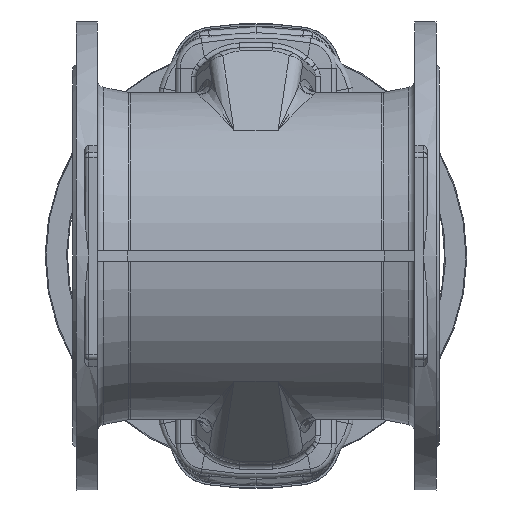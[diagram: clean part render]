
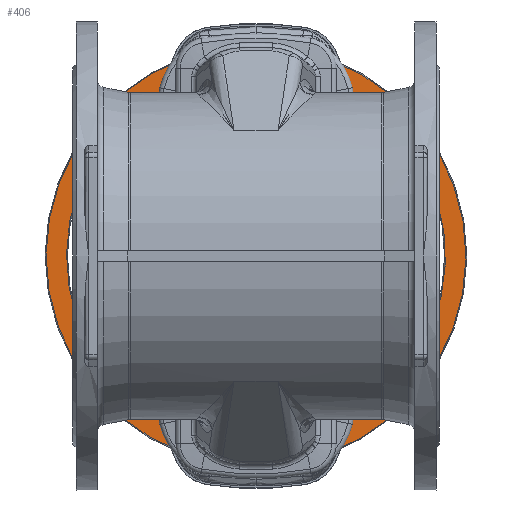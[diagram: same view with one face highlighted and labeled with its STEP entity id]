
A CAD part, front view. The second image highlights one B-rep face of the part: STEP entity #406.
In plain terms, the highlighted planar face has unit normal (0, -1, 0).
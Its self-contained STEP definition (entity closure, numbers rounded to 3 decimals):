
#406 = ADVANCED_FACE ( 'NONE', ( #44327, #44349 ), #39286, .F. ) ;
#11973 = EDGE_LOOP ( 'NONE', ( #46228 ) ) ;
#12008 = EDGE_LOOP ( 'NONE', ( #46229 ) ) ;
#22108 = CIRCLE ( 'NONE', #22518, 184.221 ) ;
#22112 = CIRCLE ( 'NONE', #22521, 204.116 ) ;
#22469 = VERTEX_POINT ( 'NONE', #27655 ) ;
#22472 = VERTEX_POINT ( 'NONE', #27658 ) ;
#22518 = AXIS2_PLACEMENT_3D ( 'NONE', #22806, #22807, #22808 ) ;
#22521 = AXIS2_PLACEMENT_3D ( 'NONE', #22816, #22817, #22818 ) ;
#22806 = CARTESIAN_POINT ( 'NONE',  ( 0., 966., 0. ) ) ;
#22807 = DIRECTION ( 'NONE',  ( 0., -1., 0. ) ) ;
#22808 = DIRECTION ( 'NONE',  ( 0., 0., 1. ) ) ;
#22816 = CARTESIAN_POINT ( 'NONE',  ( 0., 966., 0. ) ) ;
#22817 = DIRECTION ( 'NONE',  ( 0., 1., 0. ) ) ;
#22818 = DIRECTION ( 'NONE',  ( -0.646, 0., -0.763 ) ) ;
#27655 = CARTESIAN_POINT ( 'NONE',  ( 0., 966., 184.221 ) ) ;
#27658 = CARTESIAN_POINT ( 'NONE',  ( -131.925, 966., -155.754 ) ) ;
#31509 = EDGE_CURVE ( 'NONE', #22469, #22469, #22108, .T. ) ;
#31512 = EDGE_CURVE ( 'NONE', #22472, #22472, #22112, .T. ) ;
#39284 = CARTESIAN_POINT ( 'NONE',  ( 129.339, 966., 152.701 ) ) ;
#39286 = PLANE ( 'NONE',  #40645 ) ;
#39288 = DIRECTION ( 'NONE',  ( 0., 1., 0. ) ) ;
#39289 = DIRECTION ( 'NONE',  ( -0.646, 0., -0.763 ) ) ;
#40645 = AXIS2_PLACEMENT_3D ( 'NONE', #39284, #39288, #39289 ) ;
#44327 = FACE_OUTER_BOUND ( 'NONE', #11973, .T. ) ;
#44349 = FACE_BOUND ( 'NONE', #12008, .T. ) ;
#46228 = ORIENTED_EDGE ( 'NONE', *, *, #31512, .F. ) ;
#46229 = ORIENTED_EDGE ( 'NONE', *, *, #31509, .F. ) ;
